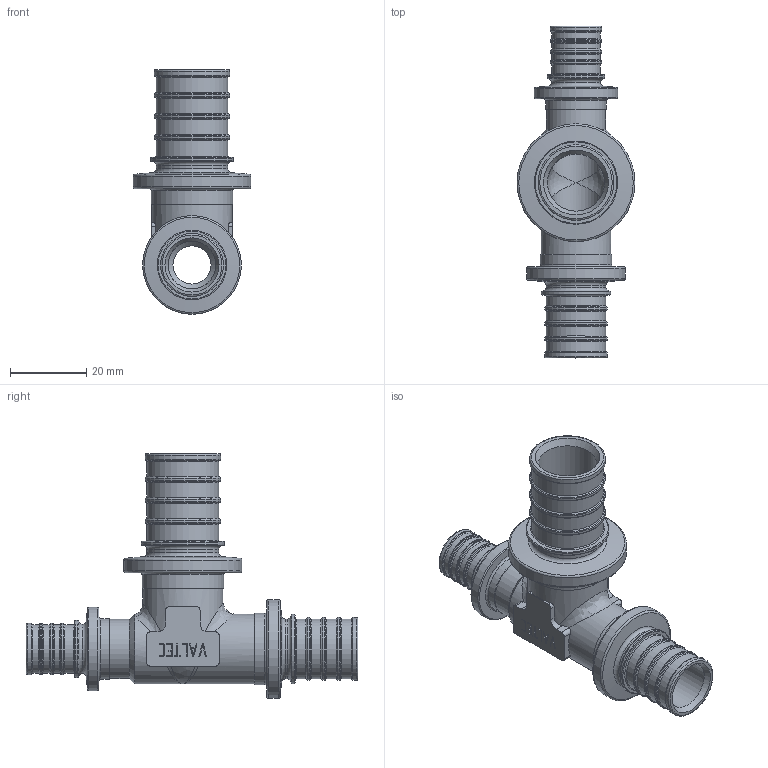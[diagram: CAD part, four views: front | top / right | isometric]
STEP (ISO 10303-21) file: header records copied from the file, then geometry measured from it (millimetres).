
FILE_DESCRIPTION(('STEP AP203'), '1');
FILE_NAME('覆.752241.010 - VTm.431.G.202516 秮鍣. 縺鳱', '', ('UNSPECIFIED'), ('UNSPECIFIED'), 'C3D Converter', 'C3D Toolkit', '');
FILE_SCHEMA(('CONFIG_CONTROL_DESIGN'));
Length unit declared in the file: millimetre
Products named in the file (1): ВР.752241.010
Bounding box: 30.9 x 87 x 64.15 mm (x, y, z)
Volume: 18635.6 mm3; surface area: 15157.9 mm2
Topology: 1 solids, 1 shells, 416 faces, 1072 edges, 673 vertices
Faces by surface type: extrusion 142, plane 123, torus 69, cylinder 59, cone 11, bspline 8, sphere 4
Full cylindrical faces by diameter (mm): 10 x1, 12.5 x2, 12.8 x4, 13.5 x4, 15 x2, 15.5 x1, 15.7 x5, 15.8 x1, 16.5 x4, 18.2 x1, 18.3 x1, 18.7 x1, 18.8 x5, 19.8 x4, 21 x1, 21.4 x1, 21.8 x1, 21.9 x1, 25.9 x1, 30.9 x1
Entity records: 17394 total; most frequent: CARTESIAN_POINT 5012, ORIENTED_EDGE 1888, DIRECTION 1446, EDGE_CURVE 944, VERTEX_POINT 673, VECTOR 584, EDGE_LOOP 563, B_SPLINE_CURVE_WITH_KNOTS 480
